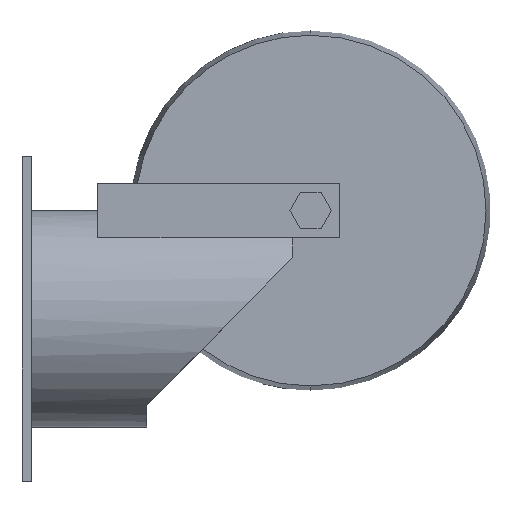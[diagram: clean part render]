
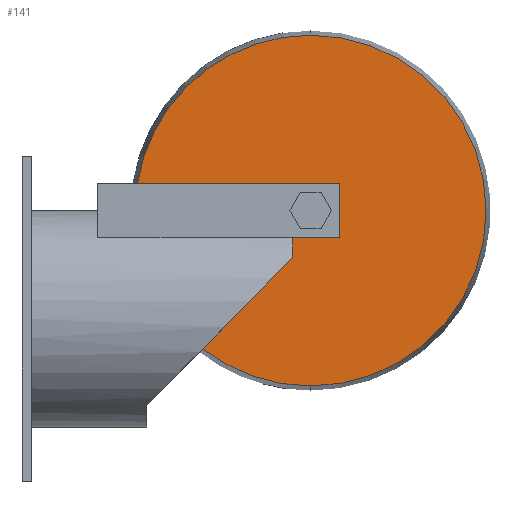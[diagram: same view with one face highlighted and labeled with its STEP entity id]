
A CAD part, left-side view. The second image highlights one B-rep face of the part: STEP entity #141.
In plain terms, the highlighted planar face has unit normal (-1, 0, 0).
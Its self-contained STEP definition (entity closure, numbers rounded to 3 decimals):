
#15 = FACE_OUTER_BOUND ( 'NONE', #45, .T. ) ;
#36 = DIRECTION ( 'NONE',  ( 0., 0., 1. ) ) ;
#45 = EDGE_LOOP ( 'NONE', ( #577, #872, #1278, #376, #1246, #137, #1074, #261 ) ) ;
#62 = DIRECTION ( 'NONE',  ( 0., 0.703, -0.711 ) ) ;
#92 = DIRECTION ( 'NONE',  ( -1., 0., 0. ) ) ;
#107 = DIRECTION ( 'NONE',  ( 0., -1., 0. ) ) ;
#123 = VERTEX_POINT ( 'NONE', #233 ) ;
#137 = ORIENTED_EDGE ( 'NONE', *, *, #1379, .F. ) ;
#141 = ADVANCED_FACE ( 'NONE', ( #15 ), #660, .F. ) ;
#175 = VECTOR ( 'NONE', #1282, 1000. ) ;
#193 = CARTESIAN_POINT ( 'NONE',  ( -14.5, -80., -18.585 ) ) ;
#223 = VECTOR ( 'NONE', #438, 1000. ) ;
#227 = CARTESIAN_POINT ( 'NONE',  ( -14.5, -80., 37.5 ) ) ;
#233 = CARTESIAN_POINT ( 'NONE',  ( -14.5, -75., 22.5 ) ) ;
#248 = CIRCLE ( 'NONE', #856, 48.585 ) ;
#250 = LINE ( 'NONE', #1208, #1258 ) ;
#261 = ORIENTED_EDGE ( 'NONE', *, *, #395, .F. ) ;
#266 = EDGE_CURVE ( 'NONE', #997, #819, #1036, .T. ) ;
#282 = DIRECTION ( 'NONE',  ( 0., 0., -1. ) ) ;
#342 = LINE ( 'NONE', #850, #742 ) ;
#366 = VERTEX_POINT ( 'NONE', #1254 ) ;
#376 = ORIENTED_EDGE ( 'NONE', *, *, #601, .T. ) ;
#382 = CARTESIAN_POINT ( 'NONE',  ( -14.5, -88., 37.5 ) ) ;
#391 = VERTEX_POINT ( 'NONE', #193 ) ;
#395 = EDGE_CURVE ( 'NONE', #997, #123, #1059, .T. ) ;
#426 = CARTESIAN_POINT ( 'NONE',  ( -14.5, -75., 30. ) ) ;
#429 = LINE ( 'NONE', #227, #223 ) ;
#438 = DIRECTION ( 'NONE',  ( 0., 1., 0. ) ) ;
#455 = DIRECTION ( 'NONE',  ( 1., 0., 0. ) ) ;
#463 = CARTESIAN_POINT ( 'NONE',  ( -14.5, -31.997, 37.5 ) ) ;
#465 = CARTESIAN_POINT ( 'NONE',  ( -14.5, -75., 17. ) ) ;
#498 = AXIS2_PLACEMENT_3D ( 'NONE', #1019, #905, #36 ) ;
#577 = ORIENTED_EDGE ( 'NONE', *, *, #266, .T. ) ;
#580 = DIRECTION ( 'NONE',  ( 0., 0., 1. ) ) ;
#601 = EDGE_CURVE ( 'NONE', #893, #1389, #1105, .T. ) ;
#629 = CARTESIAN_POINT ( 'NONE',  ( -14.5, -80., 30. ) ) ;
#660 = PLANE ( 'NONE',  #831 ) ;
#742 = VECTOR ( 'NONE', #107, 1000. ) ;
#751 = CARTESIAN_POINT ( 'NONE',  ( -14.5, -80., 78.585 ) ) ;
#798 = DIRECTION ( 'NONE',  ( 0., 0., 1. ) ) ;
#811 = AXIS2_PLACEMENT_3D ( 'NONE', #1129, #1233, #580 ) ;
#819 = VERTEX_POINT ( 'NONE', #974 ) ;
#831 = AXIS2_PLACEMENT_3D ( 'NONE', #988, #455, #282 ) ;
#850 = CARTESIAN_POINT ( 'NONE',  ( -14.5, -80., 22.5 ) ) ;
#856 = AXIS2_PLACEMENT_3D ( 'NONE', #629, #92, #798 ) ;
#872 = ORIENTED_EDGE ( 'NONE', *, *, #1335, .T. ) ;
#875 = EDGE_CURVE ( 'NONE', #123, #366, #342, .T. ) ;
#893 = VERTEX_POINT ( 'NONE', #751 ) ;
#899 = DIRECTION ( 'NONE',  ( 0., 0., 1. ) ) ;
#905 = DIRECTION ( 'NONE',  ( -1., 0., 0. ) ) ;
#924 = EDGE_CURVE ( 'NONE', #391, #893, #1262, .T. ) ;
#951 = VERTEX_POINT ( 'NONE', #382 ) ;
#974 = CARTESIAN_POINT ( 'NONE',  ( -14.5, -50.051, -8.257 ) ) ;
#988 = CARTESIAN_POINT ( 'NONE',  ( -14.5, -80., 30. ) ) ;
#997 = VERTEX_POINT ( 'NONE', #465 ) ;
#1019 = CARTESIAN_POINT ( 'NONE',  ( -14.5, -80., 30. ) ) ;
#1036 = LINE ( 'NONE', #1354, #1128 ) ;
#1059 = LINE ( 'NONE', #426, #175 ) ;
#1074 = ORIENTED_EDGE ( 'NONE', *, *, #875, .F. ) ;
#1105 = CIRCLE ( 'NONE', #498, 48.585 ) ;
#1128 = VECTOR ( 'NONE', #62, 1000. ) ;
#1129 = CARTESIAN_POINT ( 'NONE',  ( -14.5, -80., 30. ) ) ;
#1208 = CARTESIAN_POINT ( 'NONE',  ( -14.5, -88., 30. ) ) ;
#1233 = DIRECTION ( 'NONE',  ( -1., 0., 0. ) ) ;
#1246 = ORIENTED_EDGE ( 'NONE', *, *, #1267, .F. ) ;
#1254 = CARTESIAN_POINT ( 'NONE',  ( -14.5, -88., 22.5 ) ) ;
#1258 = VECTOR ( 'NONE', #899, 1000. ) ;
#1262 = CIRCLE ( 'NONE', #811, 48.585 ) ;
#1267 = EDGE_CURVE ( 'NONE', #951, #1389, #429, .T. ) ;
#1278 = ORIENTED_EDGE ( 'NONE', *, *, #924, .T. ) ;
#1282 = DIRECTION ( 'NONE',  ( 0., 0., 1. ) ) ;
#1335 = EDGE_CURVE ( 'NONE', #819, #391, #248, .T. ) ;
#1354 = CARTESIAN_POINT ( 'NONE',  ( -14.5, -34.5, -24. ) ) ;
#1379 = EDGE_CURVE ( 'NONE', #366, #951, #250, .T. ) ;
#1389 = VERTEX_POINT ( 'NONE', #463 ) ;
